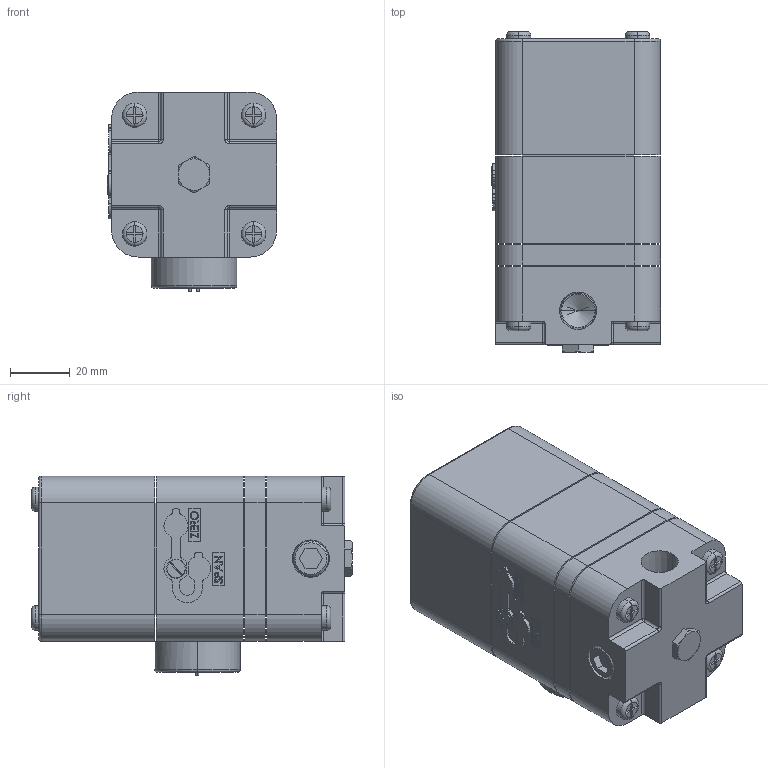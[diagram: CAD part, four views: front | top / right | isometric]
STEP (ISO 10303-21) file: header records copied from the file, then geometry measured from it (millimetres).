
FILE_DESCRIPTION((''),'2;1');
FILE_NAME('500-1','2017-09-28T',('SYSTEM'),(''),'PRO/ENGINEER BY PARAMETRIC TECHNOLOGY CORPORATION, 2016360','PRO/ENGINEER BY PARAMETRIC TECHNOLOGY CORPORATION, 2016360','');
FILE_SCHEMA(('AUTOMOTIVE_DESIGN { 1 0 10303 214 1 1 1 1 }'));
Length unit declared in the file: inch
Products named in the file (1): 500-1
Bounding box: 56.77 x 107.7 x 67.06 mm (x, y, z)
Volume: 292967.4 mm3; surface area: 43657.3 mm2
Topology: 1 solids, 3 shells, 510 faces, 1307 edges, 837 vertices
Faces by surface type: plane 264, cylinder 148, cone 34, bspline 34, torus 26, sphere 4
Entity records: 24994 total; most frequent: CARTESIAN_POINT 4527, ORIENTED_EDGE 2586, DIRECTION 2522, PRESENTATION_STYLE_ASSIGNMENT 1649, STYLED_ITEM 1308, CURVE_STYLE 1293, EDGE_CURVE 1293, AXIS2_PLACEMENT_3D 846
